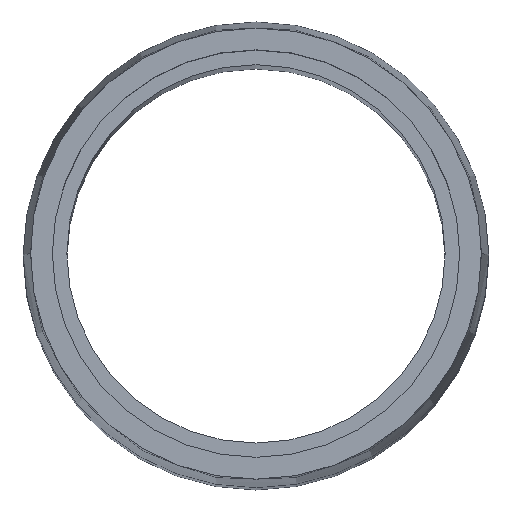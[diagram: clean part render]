
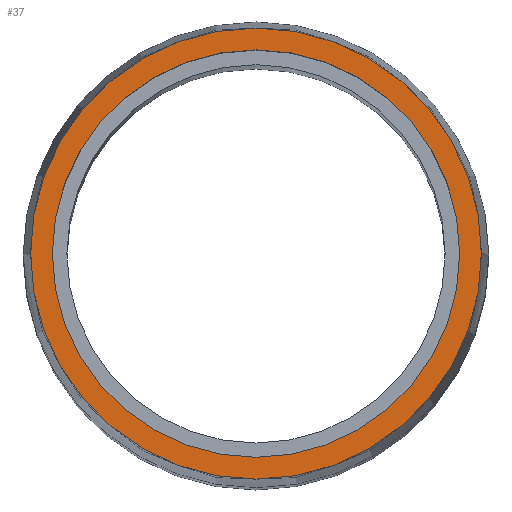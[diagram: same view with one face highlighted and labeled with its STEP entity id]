
A CAD part, top view. The second image highlights one B-rep face of the part: STEP entity #37.
In plain terms, the highlighted planar face has unit normal (0, 0, 1).
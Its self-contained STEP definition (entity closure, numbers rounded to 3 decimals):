
#4 = CARTESIAN_POINT ( 'NONE',  ( 0., 0., 94.5 ) ) ;
#8 = DIRECTION ( 'NONE',  ( 1., 0., 0. ) ) ;
#9 = AXIS2_PLACEMENT_3D ( 'NONE', #273, #304, #190 ) ;
#13 = EDGE_CURVE ( 'NONE', #149, #385, #418, .T. ) ;
#16 = EDGE_CURVE ( 'NONE', #385, #149, #366, .T. ) ;
#24 = ORIENTED_EDGE ( 'NONE', *, *, #186, .T. ) ;
#37 = ADVANCED_FACE ( 'NONE', ( #76, #440 ), #44, .T. ) ;
#44 = PLANE ( 'NONE',  #207 ) ;
#76 = FACE_BOUND ( 'NONE', #108, .T. ) ;
#87 = ORIENTED_EDGE ( 'NONE', *, *, #13, .F. ) ;
#95 = AXIS2_PLACEMENT_3D ( 'NONE', #105, #469, #357 ) ;
#105 = CARTESIAN_POINT ( 'NONE',  ( 0., 0., 94.5 ) ) ;
#108 = EDGE_LOOP ( 'NONE', ( #188, #87 ) ) ;
#115 = DIRECTION ( 'NONE',  ( 0., 0., 1. ) ) ;
#131 = CARTESIAN_POINT ( 'NONE',  ( 15.5, 0., 94.5 ) ) ;
#141 = CARTESIAN_POINT ( 'NONE',  ( 14., 0., 94.5 ) ) ;
#149 = VERTEX_POINT ( 'NONE', #242 ) ;
#155 = DIRECTION ( 'NONE',  ( 0., 0., 1. ) ) ;
#186 = EDGE_CURVE ( 'NONE', #241, #337, #203, .T. ) ;
#188 = ORIENTED_EDGE ( 'NONE', *, *, #16, .F. ) ;
#190 = DIRECTION ( 'NONE',  ( 1., 0., 0. ) ) ;
#196 = DIRECTION ( 'NONE',  ( 1., 0., 0. ) ) ;
#203 = CIRCLE ( 'NONE', #456, 15.5 ) ;
#207 = AXIS2_PLACEMENT_3D ( 'NONE', #404, #155, #8 ) ;
#241 = VERTEX_POINT ( 'NONE', #131 ) ;
#242 = CARTESIAN_POINT ( 'NONE',  ( -14., 0., 94.5 ) ) ;
#246 = EDGE_LOOP ( 'NONE', ( #455, #24 ) ) ;
#248 = DIRECTION ( 'NONE',  ( 1., 0., 0. ) ) ;
#252 = EDGE_CURVE ( 'NONE', #337, #241, #275, .T. ) ;
#273 = CARTESIAN_POINT ( 'NONE',  ( 0., 0., 94.5 ) ) ;
#275 = CIRCLE ( 'NONE', #95, 15.5 ) ;
#286 = DIRECTION ( 'NONE',  ( 0., 0., 1. ) ) ;
#296 = CARTESIAN_POINT ( 'NONE',  ( -15.5, 0., 94.5 ) ) ;
#304 = DIRECTION ( 'NONE',  ( 0., 0., 1. ) ) ;
#337 = VERTEX_POINT ( 'NONE', #296 ) ;
#357 = DIRECTION ( 'NONE',  ( 1., 0., 0. ) ) ;
#366 = CIRCLE ( 'NONE', #388, 14. ) ;
#385 = VERTEX_POINT ( 'NONE', #141 ) ;
#388 = AXIS2_PLACEMENT_3D ( 'NONE', #4, #115, #196 ) ;
#404 = CARTESIAN_POINT ( 'NONE',  ( 0., 0., 94.5 ) ) ;
#418 = CIRCLE ( 'NONE', #9, 14. ) ;
#440 = FACE_OUTER_BOUND ( 'NONE', #246, .T. ) ;
#455 = ORIENTED_EDGE ( 'NONE', *, *, #252, .T. ) ;
#456 = AXIS2_PLACEMENT_3D ( 'NONE', #457, #286, #248 ) ;
#457 = CARTESIAN_POINT ( 'NONE',  ( 0., 0., 94.5 ) ) ;
#469 = DIRECTION ( 'NONE',  ( 0., 0., 1. ) ) ;
